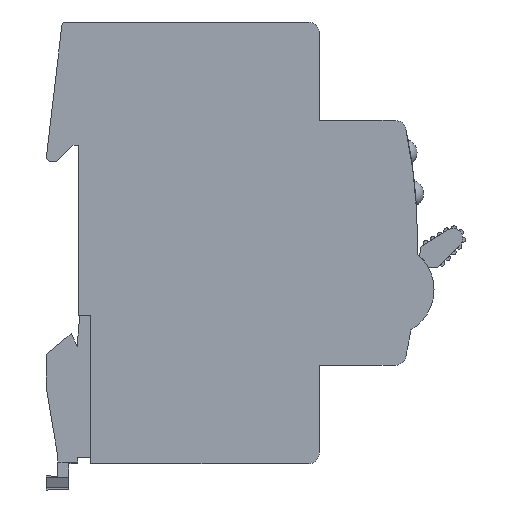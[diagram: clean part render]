
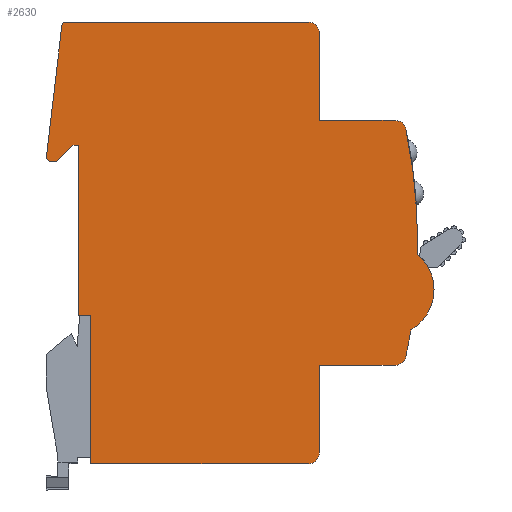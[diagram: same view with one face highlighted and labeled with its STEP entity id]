
A CAD part, left-side view. The second image highlights one B-rep face of the part: STEP entity #2630.
In plain terms, the highlighted planar face has unit normal (-1, 0, 0).
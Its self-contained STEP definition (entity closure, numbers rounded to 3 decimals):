
#251=LINE('',#4462,#515);
#256=LINE('',#4475,#520);
#260=LINE('',#4487,#524);
#263=LINE('',#4493,#527);
#266=LINE('',#4499,#530);
#269=LINE('',#4505,#533);
#272=LINE('',#4511,#536);
#275=LINE('',#4517,#539);
#278=LINE('',#4523,#542);
#282=LINE('',#4535,#546);
#285=LINE('',#4541,#549);
#291=LINE('',#4566,#555);
#294=LINE('',#4572,#558);
#515=VECTOR('',#3513,304.8);
#520=VECTOR('',#3526,304.8);
#524=VECTOR('',#3538,304.8);
#527=VECTOR('',#3543,304.8);
#530=VECTOR('',#3548,304.8);
#533=VECTOR('',#3553,304.8);
#536=VECTOR('',#3558,304.8);
#539=VECTOR('',#3563,304.8);
#542=VECTOR('',#3568,304.8);
#546=VECTOR('',#3580,304.8);
#549=VECTOR('',#3585,304.8);
#555=VECTOR('',#3613,304.8);
#558=VECTOR('',#3618,304.8);
#698=PLANE('',#3000);
#888=FACE_OUTER_BOUND('',#1060,.T.);
#1060=EDGE_LOOP('',(#2277,#2278,#2279,#2280,#2281,#2282,#2283,#2284,#2285,
#2286,#2287,#2288,#2289,#2290,#2291,#2292,#2293,#2294,#2295,#2296,#2297,
#2298));
#1133=CIRCLE('',#2902,8.5);
#1157=CIRCLE('',#2968,0.8);
#1159=CIRCLE('',#2972,0.8);
#1161=CIRCLE('',#2982,2.);
#1163=CIRCLE('',#2987,2.);
#1165=CIRCLE('',#2990,101.602);
#1166=CIRCLE('',#2991,101.602);
#1168=CIRCLE('',#2994,2.);
#1170=CIRCLE('',#2999,2.);
#1279=VERTEX_POINT('',#4189);
#1280=VERTEX_POINT('',#4190);
#1345=VERTEX_POINT('',#4459);
#1346=VERTEX_POINT('',#4461);
#1348=VERTEX_POINT('',#4467);
#1350=VERTEX_POINT('',#4473);
#1352=VERTEX_POINT('',#4479);
#1354=VERTEX_POINT('',#4485);
#1356=VERTEX_POINT('',#4491);
#1358=VERTEX_POINT('',#4497);
#1360=VERTEX_POINT('',#4503);
#1362=VERTEX_POINT('',#4509);
#1364=VERTEX_POINT('',#4515);
#1366=VERTEX_POINT('',#4521);
#1368=VERTEX_POINT('',#4527);
#1370=VERTEX_POINT('',#4533);
#1372=VERTEX_POINT('',#4539);
#1374=VERTEX_POINT('',#4545);
#1376=VERTEX_POINT('',#4551);
#1378=VERTEX_POINT('',#4558);
#1380=VERTEX_POINT('',#4564);
#1382=VERTEX_POINT('',#4570);
#1550=EDGE_CURVE('',#1279,#1280,#1133,.T.);
#1647=EDGE_CURVE('',#1346,#1345,#251,.T.);
#1651=EDGE_CURVE('',#1345,#1348,#1157,.T.);
#1654=EDGE_CURVE('',#1348,#1350,#256,.T.);
#1657=EDGE_CURVE('',#1350,#1352,#1159,.T.);
#1660=EDGE_CURVE('',#1352,#1354,#260,.T.);
#1663=EDGE_CURVE('',#1354,#1356,#263,.T.);
#1666=EDGE_CURVE('',#1356,#1358,#266,.T.);
#1669=EDGE_CURVE('',#1358,#1360,#269,.T.);
#1672=EDGE_CURVE('',#1360,#1362,#272,.T.);
#1675=EDGE_CURVE('',#1362,#1364,#275,.T.);
#1678=EDGE_CURVE('',#1364,#1366,#278,.T.);
#1681=EDGE_CURVE('',#1366,#1368,#1161,.T.);
#1684=EDGE_CURVE('',#1368,#1370,#282,.T.);
#1687=EDGE_CURVE('',#1370,#1372,#285,.T.);
#1690=EDGE_CURVE('',#1372,#1374,#1163,.T.);
#1693=EDGE_CURVE('',#1280,#1376,#1165,.T.);
#1694=EDGE_CURVE('',#1374,#1279,#1166,.T.);
#1697=EDGE_CURVE('',#1376,#1378,#1168,.T.);
#1700=EDGE_CURVE('',#1378,#1380,#291,.T.);
#1703=EDGE_CURVE('',#1380,#1382,#294,.T.);
#1705=EDGE_CURVE('',#1382,#1346,#1170,.T.);
#2277=ORIENTED_EDGE('',*,*,#1647,.T.);
#2278=ORIENTED_EDGE('',*,*,#1651,.T.);
#2279=ORIENTED_EDGE('',*,*,#1654,.T.);
#2280=ORIENTED_EDGE('',*,*,#1657,.T.);
#2281=ORIENTED_EDGE('',*,*,#1660,.T.);
#2282=ORIENTED_EDGE('',*,*,#1663,.T.);
#2283=ORIENTED_EDGE('',*,*,#1666,.T.);
#2284=ORIENTED_EDGE('',*,*,#1669,.T.);
#2285=ORIENTED_EDGE('',*,*,#1672,.T.);
#2286=ORIENTED_EDGE('',*,*,#1675,.T.);
#2287=ORIENTED_EDGE('',*,*,#1678,.T.);
#2288=ORIENTED_EDGE('',*,*,#1681,.T.);
#2289=ORIENTED_EDGE('',*,*,#1684,.T.);
#2290=ORIENTED_EDGE('',*,*,#1687,.T.);
#2291=ORIENTED_EDGE('',*,*,#1690,.T.);
#2292=ORIENTED_EDGE('',*,*,#1694,.T.);
#2293=ORIENTED_EDGE('',*,*,#1550,.T.);
#2294=ORIENTED_EDGE('',*,*,#1693,.T.);
#2295=ORIENTED_EDGE('',*,*,#1697,.T.);
#2296=ORIENTED_EDGE('',*,*,#1700,.T.);
#2297=ORIENTED_EDGE('',*,*,#1703,.T.);
#2298=ORIENTED_EDGE('',*,*,#1705,.T.);
#2630=ADVANCED_FACE('',(#888),#698,.T.);
#2902=AXIS2_PLACEMENT_3D('',#4191,#3313,#3314);
#2968=AXIS2_PLACEMENT_3D('',#4469,#3520,#3521);
#2972=AXIS2_PLACEMENT_3D('',#4481,#3532,#3533);
#2982=AXIS2_PLACEMENT_3D('',#4529,#3574,#3575);
#2987=AXIS2_PLACEMENT_3D('',#4547,#3591,#3592);
#2990=AXIS2_PLACEMENT_3D('',#4553,#3598,#3599);
#2991=AXIS2_PLACEMENT_3D('',#4554,#3600,#3601);
#2994=AXIS2_PLACEMENT_3D('',#4560,#3607,#3608);
#2999=AXIS2_PLACEMENT_3D('',#4575,#3623,#3624);
#3000=AXIS2_PLACEMENT_3D('',#4576,#3625,#3626);
#3313=DIRECTION('center_axis',(-1.,0.,0.));
#3314=DIRECTION('ref_axis',(0.,-1.,0.));
#3513=DIRECTION('',(0.,1.,0.));
#3520=DIRECTION('center_axis',(-1.,0.,0.));
#3521=DIRECTION('ref_axis',(0.,-1.,0.));
#3526=DIRECTION('',(0.,0.117,-0.993));
#3532=DIRECTION('center_axis',(-1.,0.,0.));
#3533=DIRECTION('ref_axis',(0.,-1.,0.));
#3538=DIRECTION('',(0.,-1.,0.));
#3543=DIRECTION('',(0.,-0.707,0.707));
#3548=DIRECTION('',(0.,-1.,0.));
#3553=DIRECTION('',(0.,0.,-1.));
#3558=DIRECTION('',(0.,-1.,0.));
#3563=DIRECTION('',(0.,0.,-1.));
#3568=DIRECTION('',(0.,-1.,0.));
#3574=DIRECTION('center_axis',(-1.,0.,0.));
#3575=DIRECTION('ref_axis',(0.,-1.,0.));
#3580=DIRECTION('',(0.,0.,1.));
#3585=DIRECTION('',(0.,-1.,0.));
#3591=DIRECTION('center_axis',(-1.,0.,0.));
#3592=DIRECTION('ref_axis',(0.,-1.,0.));
#3598=DIRECTION('center_axis',(-1.,0.,0.));
#3599=DIRECTION('ref_axis',(0.,-1.,0.));
#3600=DIRECTION('center_axis',(-1.,0.,0.));
#3601=DIRECTION('ref_axis',(0.,-1.,0.));
#3607=DIRECTION('center_axis',(-1.,0.,0.));
#3608=DIRECTION('ref_axis',(0.,-1.,0.));
#3613=DIRECTION('',(0.,1.,0.));
#3618=DIRECTION('',(0.,0.,1.));
#3623=DIRECTION('center_axis',(-1.,0.,0.));
#3624=DIRECTION('ref_axis',(0.,-1.,0.));
#3625=DIRECTION('center_axis',(-1.,0.,0.));
#3626=DIRECTION('ref_axis',(0.,0.,1.));
#4189=CARTESIAN_POINT('',(282.2,339.256,-15.977));
#4190=CARTESIAN_POINT('',(282.2,338.021,-2.107));
#4191=CARTESIAN_POINT('Origin',(282.2,343.495,-8.61));
#4459=CARTESIAN_POINT('',(282.2,402.289,40.35));
#4461=CARTESIAN_POINT('',(282.2,358.,40.35));
#4462=CARTESIAN_POINT('',(282.2,358.,40.35));
#4467=CARTESIAN_POINT('',(282.2,403.083,39.643));
#4469=CARTESIAN_POINT('Origin',(282.2,402.289,39.55));
#4473=CARTESIAN_POINT('',(282.2,405.895,15.743));
#4475=CARTESIAN_POINT('',(282.2,403.083,39.643));
#4479=CARTESIAN_POINT('',(282.2,405.1,14.85));
#4481=CARTESIAN_POINT('Origin',(282.2,405.1,15.65));
#4485=CARTESIAN_POINT('',(282.2,404.,14.85));
#4487=CARTESIAN_POINT('',(282.2,405.1,14.85));
#4491=CARTESIAN_POINT('',(282.2,401.05,17.8));
#4493=CARTESIAN_POINT('',(282.2,404.,14.85));
#4497=CARTESIAN_POINT('',(282.2,400.,17.8));
#4499=CARTESIAN_POINT('',(282.2,401.05,17.8));
#4503=CARTESIAN_POINT('',(282.2,400.,-13.35));
#4505=CARTESIAN_POINT('',(282.2,400.,17.8));
#4509=CARTESIAN_POINT('',(282.2,397.8,-13.35));
#4511=CARTESIAN_POINT('',(282.2,400.,-13.35));
#4515=CARTESIAN_POINT('',(282.2,397.8,-40.45));
#4517=CARTESIAN_POINT('',(282.2,397.8,-13.35));
#4521=CARTESIAN_POINT('',(282.2,358.,-40.45));
#4523=CARTESIAN_POINT('',(282.2,397.8,-40.45));
#4527=CARTESIAN_POINT('',(282.2,356.,-38.45));
#4529=CARTESIAN_POINT('Origin',(282.2,358.,-38.45));
#4533=CARTESIAN_POINT('',(282.2,356.,-22.45));
#4535=CARTESIAN_POINT('',(282.2,356.,-38.45));
#4539=CARTESIAN_POINT('',(282.2,342.111,-22.45));
#4541=CARTESIAN_POINT('',(282.2,356.,-22.45));
#4545=CARTESIAN_POINT('',(282.2,340.154,-20.86));
#4547=CARTESIAN_POINT('Origin',(282.2,342.111,-20.45));
#4551=CARTESIAN_POINT('',(282.2,340.154,20.76));
#4553=CARTESIAN_POINT('Origin',(282.2,439.602,-0.05));
#4554=CARTESIAN_POINT('Origin',(282.2,439.602,-0.05));
#4558=CARTESIAN_POINT('',(282.2,342.111,22.35));
#4560=CARTESIAN_POINT('Origin',(282.2,342.111,20.35));
#4564=CARTESIAN_POINT('',(282.2,356.,22.35));
#4566=CARTESIAN_POINT('',(282.2,342.111,22.35));
#4570=CARTESIAN_POINT('',(282.2,356.,38.35));
#4572=CARTESIAN_POINT('',(282.2,356.,22.35));
#4575=CARTESIAN_POINT('Origin',(282.2,358.,38.35));
#4576=CARTESIAN_POINT('Origin',(282.2,356.,38.35));
